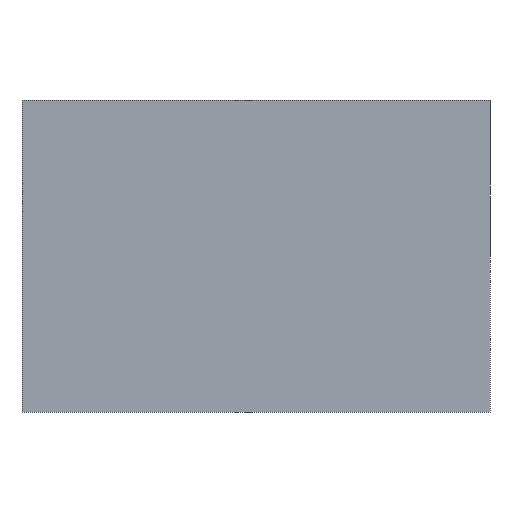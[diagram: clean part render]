
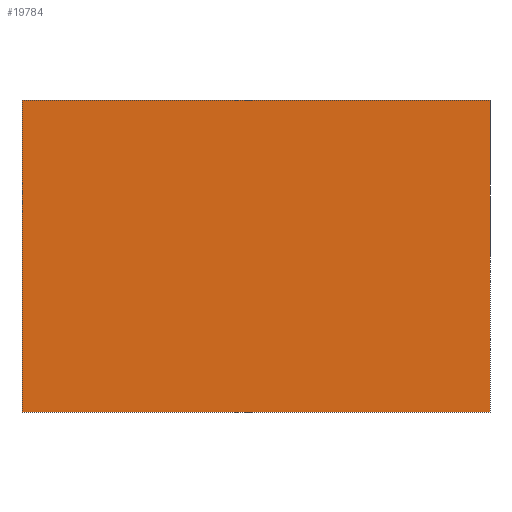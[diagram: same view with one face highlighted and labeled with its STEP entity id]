
A CAD part, front view. The second image highlights one B-rep face of the part: STEP entity #19784.
In plain terms, the highlighted planar face has unit normal (0, -1, 0).
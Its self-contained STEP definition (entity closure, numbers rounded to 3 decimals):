
#87 = DIRECTION ( 'NONE',  ( 0., 0., -1. ) ) ;
#146 = LINE ( 'NONE', #18201, #31176 ) ;
#1604 = EDGE_CURVE ( 'NONE', #50709, #49233, #1809, .T. ) ;
#1809 = LINE ( 'NONE', #40411, #32798 ) ;
#2171 = CARTESIAN_POINT ( 'NONE',  ( -150., 0., 100. ) ) ;
#2782 = EDGE_CURVE ( 'NONE', #49233, #51359, #42270, .T. ) ;
#4030 = CARTESIAN_POINT ( 'NONE',  ( 150., 0., -100. ) ) ;
#4337 = DIRECTION ( 'NONE',  ( -1., 0., 0. ) ) ;
#6917 = ORIENTED_EDGE ( 'NONE', *, *, #38360, .F. ) ;
#7095 = PLANE ( 'NONE',  #48900 ) ;
#9856 = FACE_OUTER_BOUND ( 'NONE', #18839, .T. ) ;
#14903 = CARTESIAN_POINT ( 'NONE',  ( 150., 0., 100. ) ) ;
#15215 = DIRECTION ( 'NONE',  ( 0., 1., 0. ) ) ;
#15551 = CARTESIAN_POINT ( 'NONE',  ( -150., 0., 100. ) ) ;
#18201 = CARTESIAN_POINT ( 'NONE',  ( 150., 0., 100. ) ) ;
#18839 = EDGE_LOOP ( 'NONE', ( #6917, #34015, #38300, #31979 ) ) ;
#19784 = ADVANCED_FACE ( 'NONE', ( #9856 ), #7095, .F. ) ;
#20166 = CARTESIAN_POINT ( 'NONE',  ( 150., 0., -100. ) ) ;
#23392 = EDGE_CURVE ( 'NONE', #51002, #50709, #146, .T. ) ;
#31176 = VECTOR ( 'NONE', #50637, 1000. ) ;
#31979 = ORIENTED_EDGE ( 'NONE', *, *, #23392, .F. ) ;
#32798 = VECTOR ( 'NONE', #87, 1000. ) ;
#34015 = ORIENTED_EDGE ( 'NONE', *, *, #2782, .F. ) ;
#35410 = CARTESIAN_POINT ( 'NONE',  ( 0., 0., 0. ) ) ;
#37264 = LINE ( 'NONE', #15551, #48025 ) ;
#38300 = ORIENTED_EDGE ( 'NONE', *, *, #1604, .F. ) ;
#38360 = EDGE_CURVE ( 'NONE', #51359, #51002, #37264, .T. ) ;
#40411 = CARTESIAN_POINT ( 'NONE',  ( 150., 0., 100. ) ) ;
#42270 = LINE ( 'NONE', #20166, #49226 ) ;
#43518 = DIRECTION ( 'NONE',  ( 0., 0., 1. ) ) ;
#45547 = CARTESIAN_POINT ( 'NONE',  ( -150., 0., -100. ) ) ;
#47952 = DIRECTION ( 'NONE',  ( 0., 0., 1. ) ) ;
#48025 = VECTOR ( 'NONE', #47952, 1000. ) ;
#48900 = AXIS2_PLACEMENT_3D ( 'NONE', #35410, #15215, #43518 ) ;
#49226 = VECTOR ( 'NONE', #4337, 1000. ) ;
#49233 = VERTEX_POINT ( 'NONE', #4030 ) ;
#50637 = DIRECTION ( 'NONE',  ( 1., 0., 0. ) ) ;
#50709 = VERTEX_POINT ( 'NONE', #14903 ) ;
#51002 = VERTEX_POINT ( 'NONE', #2171 ) ;
#51359 = VERTEX_POINT ( 'NONE', #45547 ) ;
